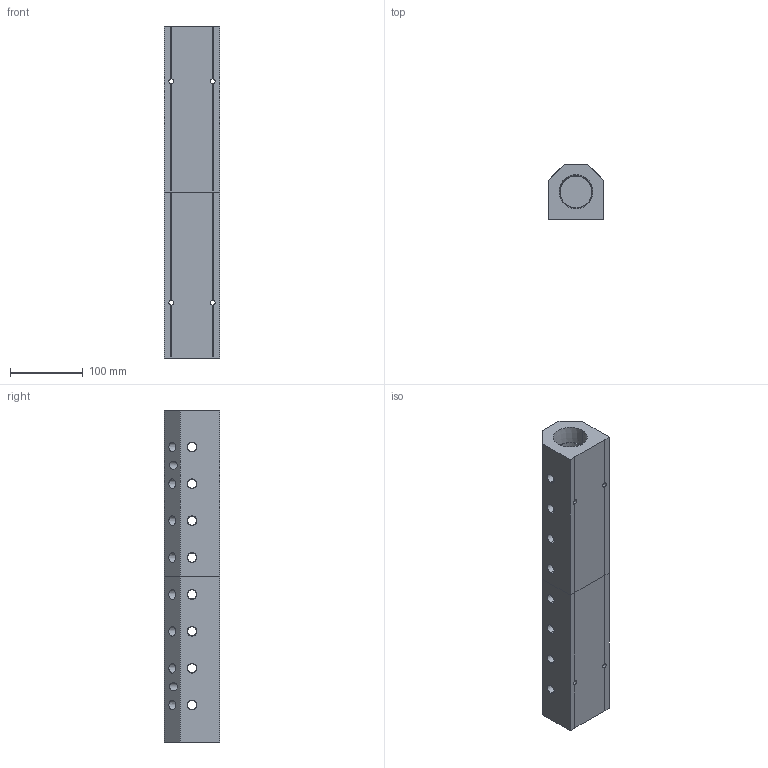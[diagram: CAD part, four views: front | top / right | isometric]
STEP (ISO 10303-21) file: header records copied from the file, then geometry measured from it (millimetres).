
FILE_DESCRIPTION (( 'STEP AP214' ), '1' );
FILE_NAME ('ALM8ABCDE-N4N24-457RB.step', '2022-02-07T07:52:18', ( '' ), ( '' ), 'SwSTEP 2.0', 'SolidWorks 2020', '' );
FILE_SCHEMA (( 'AUTOMOTIVE_DESIGN' ));
Length unit declared in the file: millimetre
Products named in the file (1): ALM8ABCDE-N4N24-457RB
Bounding box: 76.2 x 76.2 x 457 mm (x, y, z)
Volume: 1621802 mm3; surface area: 233531.9 mm2
Topology: 2 solids, 2 shells, 438 faces, 1187 edges, 778 vertices
Faces by surface type: plane 271, cone 84, bspline 63, cylinder 20
Entity records: 25383 total; most frequent: CARTESIAN_POINT 10475, ORIENTED_EDGE 2374, DIRECTION 1837, EDGE_CURVE 1187, LINE 845, VECTOR 845, VERTEX_POINT 778, EDGE_LOOP 551
